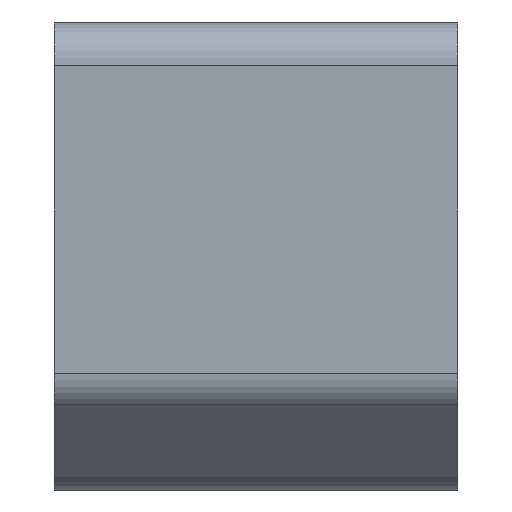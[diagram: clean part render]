
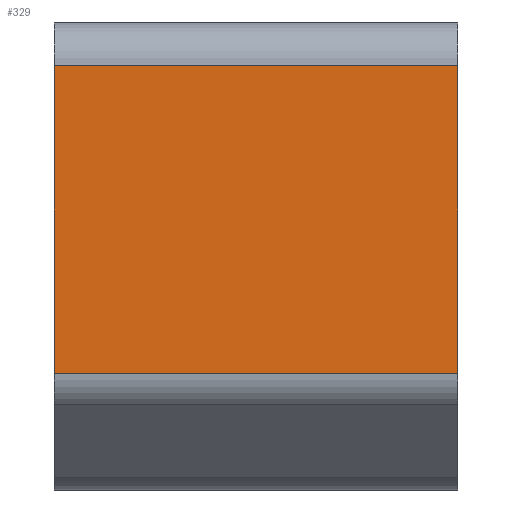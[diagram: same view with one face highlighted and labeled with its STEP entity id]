
A CAD part, front view. The second image highlights one B-rep face of the part: STEP entity #329.
In plain terms, the highlighted planar face has unit normal (0, -1, 0).
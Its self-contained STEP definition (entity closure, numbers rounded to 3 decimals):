
#12=PLANE('',#373);
#23=LINE('',#525,#47);
#24=LINE('',#527,#48);
#25=LINE('',#529,#49);
#26=LINE('',#531,#50);
#47=VECTOR('',#419,1000.);
#48=VECTOR('',#422,1000.);
#49=VECTOR('',#423,1000.);
#50=VECTOR('',#424,1000.);
#74=ORIENTED_EDGE('',*,*,#162,.F.);
#75=ORIENTED_EDGE('',*,*,#161,.T.);
#76=ORIENTED_EDGE('',*,*,#163,.T.);
#77=ORIENTED_EDGE('',*,*,#164,.F.);
#161=EDGE_CURVE('',#203,#205,#23,.T.);
#162=EDGE_CURVE('',#203,#206,#24,.T.);
#163=EDGE_CURVE('',#205,#207,#25,.T.);
#164=EDGE_CURVE('',#206,#207,#26,.T.);
#203=VERTEX_POINT('',#520);
#205=VERTEX_POINT('',#524);
#206=VERTEX_POINT('',#528);
#207=VERTEX_POINT('',#530);
#255=EDGE_LOOP('',(#74,#75,#76,#77));
#287=FACE_BOUND('',#255,.T.);
#329=ADVANCED_FACE('',(#287),#12,.F.);
#373=AXIS2_PLACEMENT_3D('',#526,#420,#421);
#419=DIRECTION('',(-1.,0.,0.));
#420=DIRECTION('',(0.,1.,0.));
#421=DIRECTION('',(0.,0.,1.));
#422=DIRECTION('',(0.,0.,-1.));
#423=DIRECTION('',(0.,0.,-1.));
#424=DIRECTION('',(-1.,0.,0.));
#520=CARTESIAN_POINT('',(70.426,5.443,72.742));
#524=CARTESIAN_POINT('',(15.326,5.443,72.742));
#525=CARTESIAN_POINT('',(560.816,5.443,72.742));
#526=CARTESIAN_POINT('',(560.816,5.443,72.742));
#527=CARTESIAN_POINT('',(70.426,5.443,72.742));
#528=CARTESIAN_POINT('',(70.426,5.443,30.742));
#529=CARTESIAN_POINT('',(15.326,5.443,72.742));
#530=CARTESIAN_POINT('',(15.326,5.443,30.742));
#531=CARTESIAN_POINT('',(560.816,5.443,30.742));
